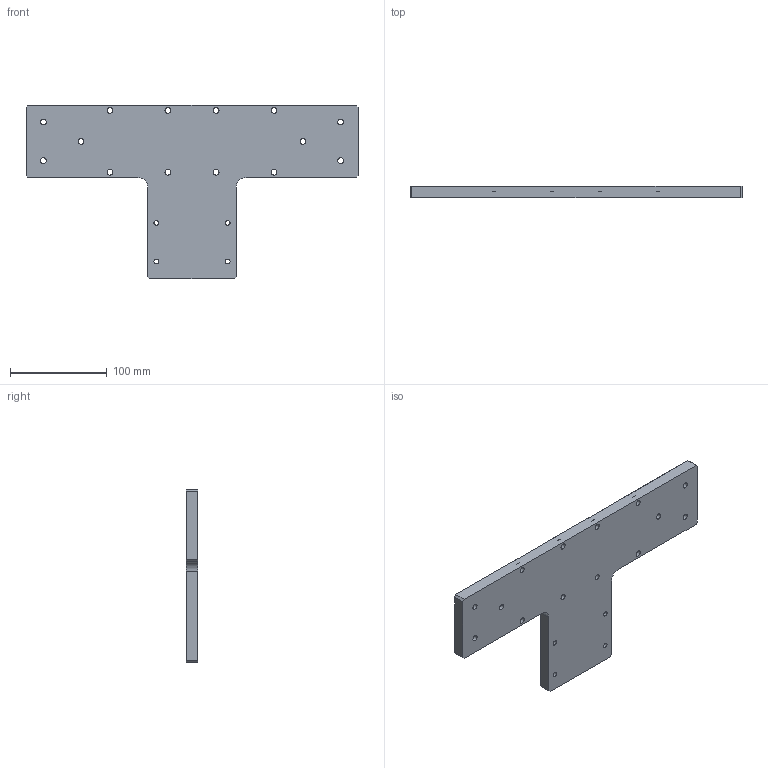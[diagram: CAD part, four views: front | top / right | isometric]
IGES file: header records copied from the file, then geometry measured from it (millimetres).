
Start section:  PTC IGES file: n60-n80m-ft.igs
Global section: file name: n60-n80m-ft.igs; native system: Pro/ENGINEER by Parametric Technology Corporation; preprocessor: 2008230; author: Owner; organization: Unknown; date: 20121212.115155; units: millimetre
Bounding box: 344 x 12 x 180 mm (x, y, z)
Surface area: 87661.8 mm2 (no closed solid volume)
Topology: 0 solids, 0 shells, 96 faces, 504 edges, 502 vertices
Faces by surface type: revolution 66, bspline 30
